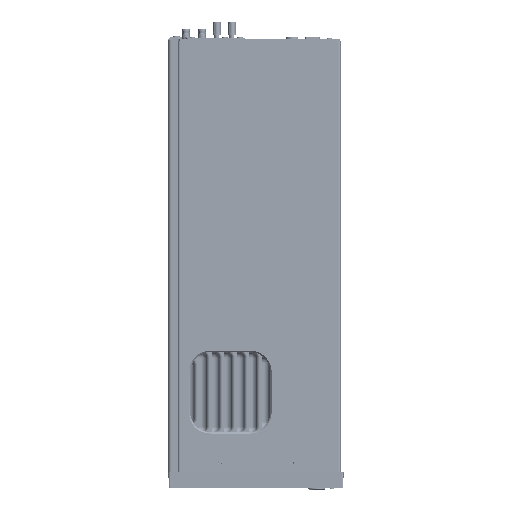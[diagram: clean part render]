
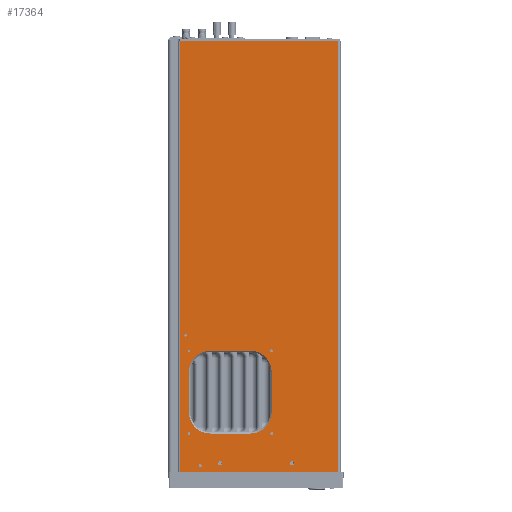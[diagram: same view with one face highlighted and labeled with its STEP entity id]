
A CAD part, left-side view. The second image highlights one B-rep face of the part: STEP entity #17364.
In plain terms, the highlighted planar face has unit normal (-1, 0, 0).
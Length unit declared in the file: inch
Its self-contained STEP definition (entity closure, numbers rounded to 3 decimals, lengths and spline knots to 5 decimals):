
#3696=DIRECTION('',(0.,0.,1.));
#3697=VECTOR('',#3696,21.5);
#3698=CARTESIAN_POINT('',(-8.575,0.108,-21.5));
#3699=LINE('',#3698,#3697);
#3714=DIRECTION('',(0.,1.,0.));
#3715=VECTOR('',#3714,7.90194);
#3716=CARTESIAN_POINT('',(-8.575,0.108,0.));
#3717=LINE('',#3716,#3715);
#3718=DIRECTION('',(0.,-1.,0.));
#3719=VECTOR('',#3718,7.90194);
#3720=CARTESIAN_POINT('',(-8.575,8.00994,-21.5));
#3721=LINE('',#3720,#3719);
#3722=CARTESIAN_POINT('',(-8.575,7.,-21.175));
#3723=DIRECTION('',(1.,0.,0.));
#3724=DIRECTION('',(0.,0.,1.));
#3725=AXIS2_PLACEMENT_3D('',#3722,#3723,#3724);
#3727=CARTESIAN_POINT('',(-8.575,7.,-21.175));
#3728=DIRECTION('',(1.,0.,0.));
#3729=DIRECTION('',(0.,0.,-1.));
#3730=AXIS2_PLACEMENT_3D('',#3727,#3728,#3729);
#3732=CARTESIAN_POINT('',(-8.575,7.5625,-15.4375));
#3733=DIRECTION('',(1.,0.,0.));
#3734=DIRECTION('',(0.,0.,1.));
#3735=AXIS2_PLACEMENT_3D('',#3732,#3733,#3734);
#3737=CARTESIAN_POINT('',(-8.575,7.5625,-15.4375));
#3738=DIRECTION('',(1.,0.,0.));
#3739=DIRECTION('',(0.,0.,-1.));
#3740=AXIS2_PLACEMENT_3D('',#3737,#3738,#3739);
#3742=CARTESIAN_POINT('',(-8.575,3.4375,-15.4375));
#3743=DIRECTION('',(1.,0.,0.));
#3744=DIRECTION('',(0.,0.,1.));
#3745=AXIS2_PLACEMENT_3D('',#3742,#3743,#3744);
#3747=CARTESIAN_POINT('',(-8.575,3.4375,-15.4375));
#3748=DIRECTION('',(1.,0.,0.));
#3749=DIRECTION('',(0.,0.,-1.));
#3750=AXIS2_PLACEMENT_3D('',#3747,#3748,#3749);
#3752=CARTESIAN_POINT('',(-8.575,3.4375,-19.5625));
#3753=DIRECTION('',(1.,0.,0.));
#3754=DIRECTION('',(0.,0.,1.));
#3755=AXIS2_PLACEMENT_3D('',#3752,#3753,#3754);
#3757=CARTESIAN_POINT('',(-8.575,3.4375,-19.5625));
#3758=DIRECTION('',(1.,0.,0.));
#3759=DIRECTION('',(0.,0.,-1.));
#3760=AXIS2_PLACEMENT_3D('',#3757,#3758,#3759);
#3762=CARTESIAN_POINT('',(-8.575,7.5625,-19.5625));
#3763=DIRECTION('',(1.,0.,0.));
#3764=DIRECTION('',(0.,0.,1.));
#3765=AXIS2_PLACEMENT_3D('',#3762,#3763,#3764);
#3767=CARTESIAN_POINT('',(-8.575,7.5625,-19.5625));
#3768=DIRECTION('',(1.,0.,0.));
#3769=DIRECTION('',(0.,0.,-1.));
#3770=AXIS2_PLACEMENT_3D('',#3767,#3768,#3769);
#3772=CARTESIAN_POINT('',(-8.575,6.5,-16.5));
#3773=DIRECTION('',(1.,0.,0.));
#3774=DIRECTION('',(0.,1.,0.));
#3775=AXIS2_PLACEMENT_3D('',#3772,#3773,#3774);
#3777=DIRECTION('',(0.,0.,1.));
#3778=VECTOR('',#3777,2.);
#3779=CARTESIAN_POINT('',(-8.575,7.565,
-18.5));
#3780=LINE('',#3779,#3778);
#3781=CARTESIAN_POINT('',(-8.575,6.5,-18.5));
#3782=DIRECTION('',(1.,0.,0.));
#3783=DIRECTION('',(0.,0.,-1.));
#3784=AXIS2_PLACEMENT_3D('',#3781,#3782,#3783);
#3786=DIRECTION('',(0.,1.,0.));
#3787=VECTOR('',#3786,2.);
#3788=CARTESIAN_POINT('',(-8.575,4.5,
-19.565));
#3789=LINE('',#3788,#3787);
#3790=CARTESIAN_POINT('',(-8.575,4.5,-18.5));
#3791=DIRECTION('',(1.,0.,0.));
#3792=DIRECTION('',(0.,-1.,0.));
#3793=AXIS2_PLACEMENT_3D('',#3790,#3791,#3792);
#3795=DIRECTION('',(0.,0.,-1.));
#3796=VECTOR('',#3795,2.);
#3797=CARTESIAN_POINT('',(-8.575,3.435,
-16.5));
#3798=LINE('',#3797,#3796);
#3799=CARTESIAN_POINT('',(-8.575,4.5,-16.5));
#3800=DIRECTION('',(1.,0.,0.));
#3801=DIRECTION('',(0.,0.,1.));
#3802=AXIS2_PLACEMENT_3D('',#3799,#3800,#3801);
#3804=DIRECTION('',(0.,-1.,0.));
#3805=VECTOR('',#3804,2.);
#3806=CARTESIAN_POINT('',(-8.575,6.5,
-15.435));
#3807=LINE('',#3806,#3805);
#3808=CARTESIAN_POINT('',(-8.575,7.72,-14.6635));
#3809=DIRECTION('',(1.,0.,0.));
#3810=DIRECTION('',(0.,0.,1.));
#3811=AXIS2_PLACEMENT_3D('',#3808,#3809,#3810);
#3813=CARTESIAN_POINT('',(-8.575,7.72,-14.6635));
#3814=DIRECTION('',(1.,0.,0.));
#3815=DIRECTION('',(0.,0.,-1.));
#3816=AXIS2_PLACEMENT_3D('',#3813,#3814,#3815);
#3818=CARTESIAN_POINT('',(-8.575,6.013,-21.055));
#3819=DIRECTION('',(1.,0.,0.));
#3820=DIRECTION('',(0.,0.,1.));
#3821=AXIS2_PLACEMENT_3D('',#3818,#3819,#3820);
#3823=CARTESIAN_POINT('',(-8.575,6.013,-21.055));
#3824=DIRECTION('',(1.,0.,0.));
#3825=DIRECTION('',(0.,0.,-1.));
#3826=AXIS2_PLACEMENT_3D('',#3823,#3824,#3825);
#3828=CARTESIAN_POINT('',(-8.575,2.413,-21.055));
#3829=DIRECTION('',(1.,0.,0.));
#3830=DIRECTION('',(0.,0.,1.));
#3831=AXIS2_PLACEMENT_3D('',#3828,#3829,#3830);
#3833=CARTESIAN_POINT('',(-8.575,2.413,-21.055));
#3834=DIRECTION('',(1.,0.,0.));
#3835=DIRECTION('',(0.,0.,-1.));
#3836=AXIS2_PLACEMENT_3D('',#3833,#3834,#3835);
#3838=DIRECTION('',(0.,0.,1.));
#3839=VECTOR('',#3838,21.5);
#3840=CARTESIAN_POINT('',(-8.575,8.00994,-21.5));
#3841=LINE('',#3840,#3839);
#11529=CARTESIAN_POINT('',(-8.575,0.108,-21.5));
#11530=CARTESIAN_POINT('',(-8.575,0.108,0.));
#11531=VERTEX_POINT('',#11529);
#11532=VERTEX_POINT('',#11530);
#11545=CARTESIAN_POINT('',(-8.575,8.00994,0.));
#11546=VERTEX_POINT('',#11545);
#11547=CARTESIAN_POINT('',(-8.575,8.00994,-21.5));
#11548=VERTEX_POINT('',#11547);
#12009=CARTESIAN_POINT('',(-8.575,7.,-21.0935));
#12010=CARTESIAN_POINT('',(-8.575,7.,-21.2565));
#12011=VERTEX_POINT('',#12009);
#12012=VERTEX_POINT('',#12010);
#13981=CARTESIAN_POINT('',(-8.575,7.5625,-15.369));
#13982=CARTESIAN_POINT('',(-8.575,7.5625,-15.506));
#13983=VERTEX_POINT('',#13981);
#13984=VERTEX_POINT('',#13982);
#13985=CARTESIAN_POINT('',(-8.575,3.4375,-15.369));
#13986=CARTESIAN_POINT('',(-8.575,3.4375,-15.506));
#13987=VERTEX_POINT('',#13985);
#13988=VERTEX_POINT('',#13986);
#13989=CARTESIAN_POINT('',(-8.575,3.4375,-19.494));
#13990=CARTESIAN_POINT('',(-8.575,3.4375,-19.631));
#13991=VERTEX_POINT('',#13989);
#13992=VERTEX_POINT('',#13990);
#13993=CARTESIAN_POINT('',(-8.575,7.5625,-19.494));
#13994=CARTESIAN_POINT('',(-8.575,7.5625,-19.631));
#13995=VERTEX_POINT('',#13993);
#13996=VERTEX_POINT('',#13994);
#14081=CARTESIAN_POINT('',(-8.575,7.72,-14.595));
#14082=CARTESIAN_POINT('',(-8.575,7.72,-14.732));
#14083=VERTEX_POINT('',#14081);
#14084=VERTEX_POINT('',#14082);
#14157=CARTESIAN_POINT('',(-8.575,6.013,-20.9515));
#14158=CARTESIAN_POINT('',(-8.575,6.013,-21.1585));
#14159=VERTEX_POINT('',#14157);
#14160=VERTEX_POINT('',#14158);
#14161=CARTESIAN_POINT('',(-8.575,2.413,-20.9515));
#14162=CARTESIAN_POINT('',(-8.575,2.413,-21.1585));
#14163=VERTEX_POINT('',#14161);
#14164=VERTEX_POINT('',#14162);
#14533=CARTESIAN_POINT('',(-8.575,7.565,-16.5));
#14534=CARTESIAN_POINT('',(-8.575,6.5,-15.435));
#14535=VERTEX_POINT('',#14533);
#14536=VERTEX_POINT('',#14534);
#14541=CARTESIAN_POINT('',(-8.575,4.5,
-15.435));
#14542=VERTEX_POINT('',#14541);
#14545=CARTESIAN_POINT('',(-8.575,3.435,-16.5));
#14546=VERTEX_POINT('',#14545);
#14549=CARTESIAN_POINT('',(-8.575,3.435,
-18.5));
#14550=VERTEX_POINT('',#14549);
#14553=CARTESIAN_POINT('',(-8.575,4.5,-19.565));
#14554=VERTEX_POINT('',#14553);
#14557=CARTESIAN_POINT('',(-8.575,6.5,
-19.565));
#14558=VERTEX_POINT('',#14557);
#14561=CARTESIAN_POINT('',(-8.575,7.565,-18.5));
#14562=VERTEX_POINT('',#14561);
#17284=CARTESIAN_POINT('',(-8.575,0.,0.));
#17285=DIRECTION('',(-1.,0.,0.));
#17286=DIRECTION('',(0.,0.,1.));
#17287=AXIS2_PLACEMENT_3D('',#17284,#17285,#17286);
#17288=PLANE('',#17287);
#17290=ORIENTED_EDGE('',*,*,#17289,.T.);
#17292=ORIENTED_EDGE('',*,*,#17291,.F.);
#17293=ORIENTED_EDGE('',*,*,#17275,.F.);
#17295=ORIENTED_EDGE('',*,*,#17294,.F.);
#17296=EDGE_LOOP('',(#17290,#17292,#17293,#17295));
#17297=FACE_OUTER_BOUND('',#17296,.F.);
#17299=ORIENTED_EDGE('',*,*,#17298,.F.);
#17301=ORIENTED_EDGE('',*,*,#17300,.F.);
#17302=EDGE_LOOP('',(#17299,#17301));
#17303=FACE_BOUND('',#17302,.F.);
#17305=ORIENTED_EDGE('',*,*,#17304,.F.);
#17307=ORIENTED_EDGE('',*,*,#17306,.F.);
#17308=EDGE_LOOP('',(#17305,#17307));
#17309=FACE_BOUND('',#17308,.F.);
#17311=ORIENTED_EDGE('',*,*,#17310,.F.);
#17313=ORIENTED_EDGE('',*,*,#17312,.F.);
#17314=EDGE_LOOP('',(#17311,#17313));
#17315=FACE_BOUND('',#17314,.F.);
#17317=ORIENTED_EDGE('',*,*,#17316,.F.);
#17319=ORIENTED_EDGE('',*,*,#17318,.F.);
#17320=EDGE_LOOP('',(#17317,#17319));
#17321=FACE_BOUND('',#17320,.F.);
#17323=ORIENTED_EDGE('',*,*,#17322,.F.);
#17325=ORIENTED_EDGE('',*,*,#17324,.F.);
#17326=EDGE_LOOP('',(#17323,#17325));
#17327=FACE_BOUND('',#17326,.F.);
#17329=ORIENTED_EDGE('',*,*,#17328,.F.);
#17331=ORIENTED_EDGE('',*,*,#17330,.F.);
#17333=ORIENTED_EDGE('',*,*,#17332,.F.);
#17335=ORIENTED_EDGE('',*,*,#17334,.F.);
#17337=ORIENTED_EDGE('',*,*,#17336,.F.);
#17339=ORIENTED_EDGE('',*,*,#17338,.F.);
#17341=ORIENTED_EDGE('',*,*,#17340,.F.);
#17343=ORIENTED_EDGE('',*,*,#17342,.F.);
#17344=EDGE_LOOP('',(#17329,#17331,#17333,#17335,#17337,#17339,#17341,#17343));
#17345=FACE_BOUND('',#17344,.F.);
#17347=ORIENTED_EDGE('',*,*,#17346,.F.);
#17349=ORIENTED_EDGE('',*,*,#17348,.F.);
#17350=EDGE_LOOP('',(#17347,#17349));
#17351=FACE_BOUND('',#17350,.F.);
#17353=ORIENTED_EDGE('',*,*,#17352,.F.);
#17355=ORIENTED_EDGE('',*,*,#17354,.F.);
#17356=EDGE_LOOP('',(#17353,#17355));
#17357=FACE_BOUND('',#17356,.F.);
#17359=ORIENTED_EDGE('',*,*,#17358,.F.);
#17361=ORIENTED_EDGE('',*,*,#17360,.F.);
#17362=EDGE_LOOP('',(#17359,#17361));
#17363=FACE_BOUND('',#17362,.F.);
#17364=ADVANCED_FACE('',(#17297,#17303,#17309,#17315,#17321,#17327,#17345,
#17351,#17357,#17363),#17288,.T.);
#3726=CIRCLE('',#3725,0.0815);
#3731=CIRCLE('',#3730,0.0815);
#3736=CIRCLE('',#3735,0.0685);
#3741=CIRCLE('',#3740,0.0685);
#3746=CIRCLE('',#3745,0.0685);
#3751=CIRCLE('',#3750,0.0685);
#3756=CIRCLE('',#3755,0.0685);
#3761=CIRCLE('',#3760,0.0685);
#3766=CIRCLE('',#3765,0.0685);
#3771=CIRCLE('',#3770,0.0685);
#3776=CIRCLE('',#3775,1.065);
#3785=CIRCLE('',#3784,1.065);
#3794=CIRCLE('',#3793,1.065);
#3803=CIRCLE('',#3802,1.065);
#3812=CIRCLE('',#3811,0.0685);
#3817=CIRCLE('',#3816,0.0685);
#3822=CIRCLE('',#3821,0.1035);
#3827=CIRCLE('',#3826,0.1035);
#3832=CIRCLE('',#3831,0.1035);
#3837=CIRCLE('',#3836,0.1035);
#17275=EDGE_CURVE('',#11531,#11532,#3699,.T.);
#17289=EDGE_CURVE('',#11548,#11546,#3841,.T.);
#17291=EDGE_CURVE('',#11532,#11546,#3717,.T.);
#17294=EDGE_CURVE('',#11548,#11531,#3721,.T.);
#17298=EDGE_CURVE('',#12011,#12012,#3726,.T.);
#17300=EDGE_CURVE('',#12012,#12011,#3731,.T.);
#17304=EDGE_CURVE('',#13983,#13984,#3736,.T.);
#17306=EDGE_CURVE('',#13984,#13983,#3741,.T.);
#17310=EDGE_CURVE('',#13987,#13988,#3746,.T.);
#17312=EDGE_CURVE('',#13988,#13987,#3751,.T.);
#17316=EDGE_CURVE('',#13991,#13992,#3756,.T.);
#17318=EDGE_CURVE('',#13992,#13991,#3761,.T.);
#17322=EDGE_CURVE('',#13995,#13996,#3766,.T.);
#17324=EDGE_CURVE('',#13996,#13995,#3771,.T.);
#17328=EDGE_CURVE('',#14535,#14536,#3776,.T.);
#17330=EDGE_CURVE('',#14562,#14535,#3780,.T.);
#17332=EDGE_CURVE('',#14558,#14562,#3785,.T.);
#17334=EDGE_CURVE('',#14554,#14558,#3789,.T.);
#17336=EDGE_CURVE('',#14550,#14554,#3794,.T.);
#17338=EDGE_CURVE('',#14546,#14550,#3798,.T.);
#17340=EDGE_CURVE('',#14542,#14546,#3803,.T.);
#17342=EDGE_CURVE('',#14536,#14542,#3807,.T.);
#17346=EDGE_CURVE('',#14083,#14084,#3812,.T.);
#17348=EDGE_CURVE('',#14084,#14083,#3817,.T.);
#17352=EDGE_CURVE('',#14159,#14160,#3822,.T.);
#17354=EDGE_CURVE('',#14160,#14159,#3827,.T.);
#17358=EDGE_CURVE('',#14163,#14164,#3832,.T.);
#17360=EDGE_CURVE('',#14164,#14163,#3837,.T.);
